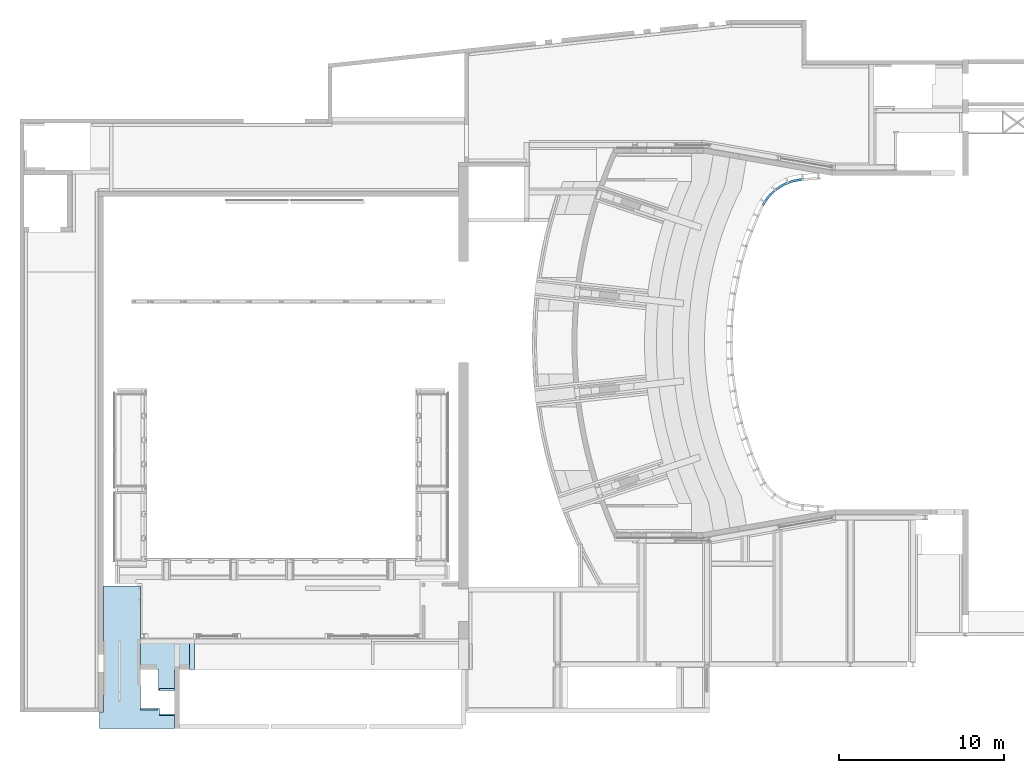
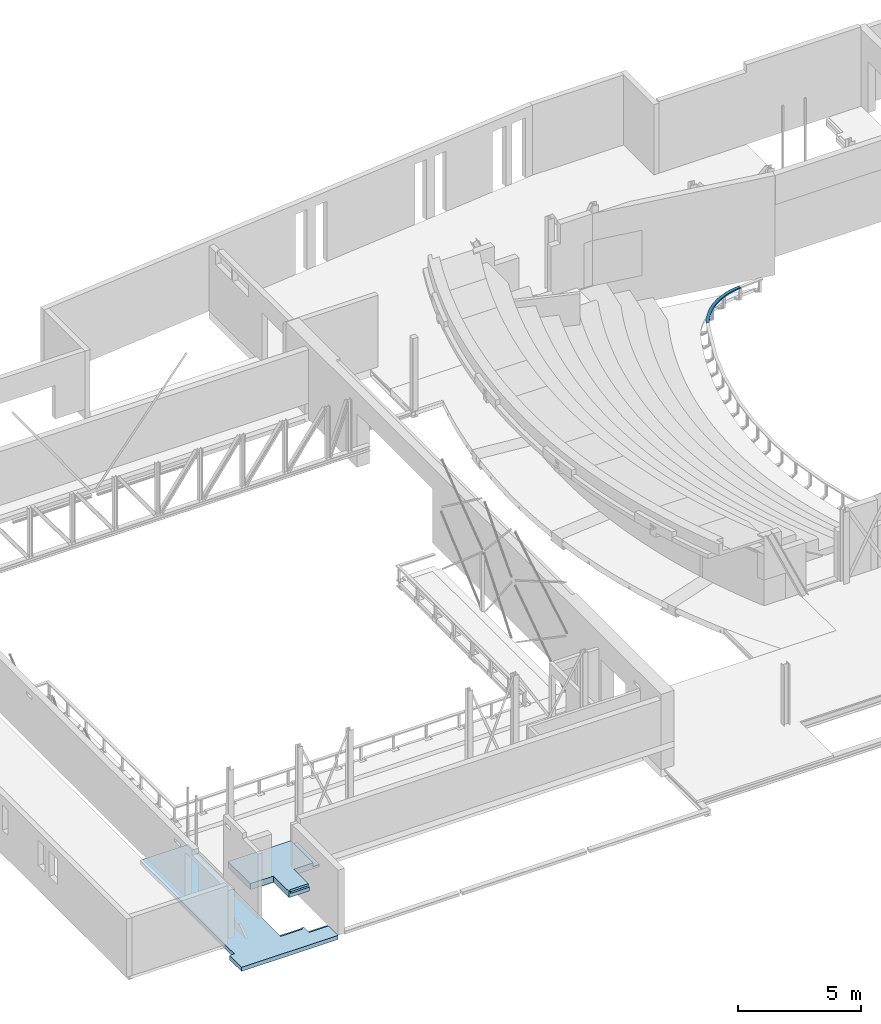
# One storey, part 57 of 68: 2 slabs, 1 beam.
"""IFC2X3 building model written with IfcOpenShell, lengths in millimetres."""

from ifc_helpers import new_model, entity, si_unit, converted_unit, derived_unit, direction, frame, origin, place, context, subcontext, project, spatial, faceted_brep, material, type_object, element, save


model = new_model("IFC2X3")

# Units and contexts
model_context = context("Model", 3, precision=0.01, world=origin(), true_north=direction((6.12303176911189e-17, 1.0)))
body_context = subcontext(model_context, "Body", "Model", "MODEL_VIEW")
ifc_project = project(units=[si_unit("LENGTHUNIT", "METRE", prefix="MILLI"), si_unit("AREAUNIT", "SQUARE_METRE", prefix="MILLI"), si_unit("VOLUMEUNIT", "CUBIC_METRE"), converted_unit("PLANEANGLEUNIT", "DEGREE", entity("IfcRatioMeasure", 0.0174532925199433), si_unit("PLANEANGLEUNIT", "RADIAN"), dimensions=[0, 0, 0, 0, 0, 0, 0]), si_unit("MASSUNIT", "GRAM", prefix="KILO"), derived_unit("MASSDENSITYUNIT", [(si_unit("MASSUNIT", "GRAM", prefix="KILO"), 1), (si_unit("LENGTHUNIT", "METRE"), -3)]), derived_unit("MOMENTOFINERTIAUNIT", [(si_unit("LENGTHUNIT", "METRE"), 4)]), si_unit("TIMEUNIT", "SECOND"), si_unit("FREQUENCYUNIT", "HERTZ"), si_unit("THERMODYNAMICTEMPERATUREUNIT", "DEGREE_CELSIUS"), derived_unit("THERMALTRANSMITTANCEUNIT", [(si_unit("MASSUNIT", "GRAM", prefix="KILO"), 1), (si_unit("THERMODYNAMICTEMPERATUREUNIT", "KELVIN"), -1), (si_unit("TIMEUNIT", "SECOND"), -3)]), derived_unit("VOLUMETRICFLOWRATEUNIT", [(si_unit("LENGTHUNIT", "METRE"), 3), (si_unit("TIMEUNIT", "SECOND"), -1)]), si_unit("ELECTRICCURRENTUNIT", "AMPERE"), si_unit("ELECTRICVOLTAGEUNIT", "VOLT"), si_unit("POWERUNIT", "WATT"), si_unit("FORCEUNIT", "NEWTON", prefix="KILO"), si_unit("ILLUMINANCEUNIT", "LUX"), si_unit("LUMINOUSFLUXUNIT", "LUMEN"), si_unit("LUMINOUSINTENSITYUNIT", "CANDELA"), derived_unit("USERDEFINED", [(si_unit("MASSUNIT", "GRAM", prefix="KILO"), -1), (si_unit("LENGTHUNIT", "METRE"), -2), (si_unit("TIMEUNIT", "SECOND"), 3), (si_unit("LUMINOUSFLUXUNIT", "LUMEN"), 1)]), derived_unit("LINEARVELOCITYUNIT", [(si_unit("LENGTHUNIT", "METRE"), 1), (si_unit("TIMEUNIT", "SECOND"), -1)]), si_unit("PRESSUREUNIT", "PASCAL"), derived_unit("USERDEFINED", [(si_unit("LENGTHUNIT", "METRE"), -2), (si_unit("MASSUNIT", "GRAM", prefix="KILO"), 1), (si_unit("TIMEUNIT", "SECOND"), -2)]), derived_unit("LINEARFORCEUNIT", [(si_unit("MASSUNIT", "GRAM", prefix="KILO"), 1), (si_unit("LENGTHUNIT", "METRE"), 1), (si_unit("TIMEUNIT", "SECOND"), -2), (si_unit("LENGTHUNIT", "METRE"), -1)]), derived_unit("PLANARFORCEUNIT", [(si_unit("MASSUNIT", "GRAM", prefix="KILO"), 1), (si_unit("LENGTHUNIT", "METRE"), 1), (si_unit("TIMEUNIT", "SECOND"), -2), (si_unit("LENGTHUNIT", "METRE"), -2)])], contexts=[model_context])

# Site, building, storey
site_placement = place(None, origin())
site = spatial("IfcSite", under=ifc_project, at=site_placement, Name="Theater aan de Parade", CompositionType="ELEMENT")
building_placement = place(site_placement, origin())
building = spatial("IfcBuilding", under=site, at=building_placement, Name="Theater aan de Parade", CompositionType="ELEMENT")
storey_placement = place(building_placement, frame((0.0, 0.0, 8750.0)))
storey = spatial("IfcBuildingStorey", under=building, at=storey_placement, Name="02 tweede verdieping", CompositionType="ELEMENT", Elevation=8750.0)

# Beam
ifc_material_1 = material(Name="00_PBT_MAT_staal_S355")
beam_type = type_object("IfcBeamType", Name="28_PBT_SF_staal_UNP-profiel:S355_UNP140", PredefinedType="NOTDEFINED")
beam_placement = place(storey_placement, frame((57862.6552928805, 39365.6098973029, 0.0)))
element("IfcBeam", 1, at=beam_placement, inside=storey, type_object=beam_type, material=ifc_material_1, Name="28_PBT_SF_staal_UNP-profiel:S355_UNP140", ObjectType="28_PBT_SF_staal_UNP-profiel:S355_UNP140", context=body_context, shape_type="Brep", body=[
    faceted_brep([(-2566.82973361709, 1591.73644807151, -1398.0), (-2566.82973361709, 1591.73644807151, -1458.0), (-2661.93820644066, 1426.99852368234, -1458.0), (-2661.93820644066, 1426.99852368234, -1398.0), (-2564.29373593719, 1590.16383112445, -1458.0), (-2659.30824270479, 1425.58866587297, -1458.0), (-2561.41132852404, 1588.37639938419, -1456.67380120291), (-2656.31903375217, 1423.98622568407, -1456.67380120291), (-2560.05797920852, 1587.53716357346, -1453.39872611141), (-2654.91553892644, 1423.23384719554, -1453.39872611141), (-2557.3930846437, 1585.88461539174, -1414.20254777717), (-2652.15190230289, 1421.75233069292, -1414.20254777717), (-2554.68638601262, 1584.20614377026, -1407.65239759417), (-2649.34491265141, 1420.24757371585, -1407.65239759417), (-2548.92157118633, 1580.63128028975, -1405.0), (-2643.36649474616, 1417.04269333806, -1405.0), (-2465.75778914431, 1529.05995037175, -1405.0), (-2557.12125381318, 1370.80877581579, -1405.0), (-2459.99297431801, 1525.48508689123, -1407.65239759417), (-2551.14283590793, 1367.60389543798, -1407.65239759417), (-2457.28627568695, 1523.80661526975, -1414.20254777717), (-2548.33584625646, 1366.09913846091, -1414.20254777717), (-2454.62138112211, 1522.15406708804, -1453.39872611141), (-2545.5722096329, 1364.61762195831, -1453.39872611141), (-2453.26803180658, 1521.3148312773, -1456.67380120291), (-2544.16871480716, 1363.86524346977, -1456.67380120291), (-2450.38562439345, 1519.52739953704, -1458.0), (-2541.17950585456, 1362.26280328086, -1458.0), (-2447.84962671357, 1517.95478258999, -1458.0), (-2538.54954211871, 1360.8529454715, -1458.0), (-2447.84962671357, 1517.95478258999, -1398.0), (-2538.54954211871, 1360.8529454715, -1398.0), (-2346.48573014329, 1901.64258464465, -1398.0), (-2346.48573014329, 1901.64258464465, -1458.0), (-2344.16742975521, 1899.76378406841, -1458.0), (-2341.53245643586, 1897.62834492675, -1456.67380120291), (-2340.29528249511, 1896.62571251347, -1453.39872611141), (-2337.85915009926, 1894.65141833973, -1414.20254777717), (-2335.38480221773, 1892.64615351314, -1407.65239759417), (-2330.11485557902, 1888.37527522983, -1405.0), (-2254.09009037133, 1826.76316774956, -1405.0), (-2248.82014373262, 1822.49228946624, -1407.65239759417), (-2246.3457958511, 1820.48702463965, -1414.20254777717), (-2243.90966345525, 1818.51273046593, -1453.39872611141), (-2242.67248951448, 1817.51009805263, -1456.67380120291), (-2240.03751619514, 1815.37465891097, -1458.0), (-2237.71921580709, 1813.49585833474, -1458.0), (-2237.71921580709, 1813.49585833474, -1398.0), (-2222.12421430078, 2045.58152556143, -1398.0), (-2222.12421430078, 2045.58152556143, -1458.0), (-2219.92878163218, 2043.56051499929, -1458.0), (-2217.43345939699, 2041.26344041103, -1456.67380120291), (-2216.26185450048, 2040.18491684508, -1453.39872611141), (-2213.95483480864, 2038.06118459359, -1414.20254777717), (-2211.61162501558, 2035.90413746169, -1407.65239759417), (-2206.6209805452, 2031.30998828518, -1405.0), (-2134.62545571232, 1965.03434330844, -1405.0), (-2129.63481124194, 1960.44019413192, -1407.65239759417), (-2127.2916014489, 1958.28314700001, -1414.20254777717), (-2124.98458175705, 1956.15941474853, -1453.39872611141), (-2123.81297686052, 1955.08089118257, -1456.67380120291), (-2121.31765462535, 1952.78381659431, -1458.0), (-2119.12222195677, 1950.76280603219, -1458.0), (-2119.12222195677, 1950.76280603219, -1398.0), (-1947.48665481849, 2308.57868196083, -1398.0), (-1947.48665481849, 2308.57868196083, -1458.0), (-1945.56256083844, 2306.29783329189, -1458.0), (-1943.37564134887, 2303.705427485, -1456.67380120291), (-1942.34883785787, 2302.48823986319, -1453.39872611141), (-1940.32694815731, 2300.09146274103, -1414.20254777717), (-1938.27334117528, 2297.65708749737, -1407.65239759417), (-1933.89950219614, 2292.4722758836, -1405.0), (-1870.80207365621, 2217.67567686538, -1405.0), (-1866.42823467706, 2212.4908652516, -1407.65239759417), (-1864.37462769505, 2210.05649000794, -1414.20254777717), (-1862.35273799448, 2207.65971288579, -1453.39872611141), (-1861.32593450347, 2206.44252526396, -1456.67380120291), (-1859.13901501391, 2203.85011945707, -1458.0), (-1857.21492103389, 2201.56927078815, -1458.0), (-1857.21492103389, 2201.56927078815, -1398.0), (-1798.29998638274, 2426.5936949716, -1398.0), (-1798.29998638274, 2426.5936949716, -1458.0), (-1796.52328708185, 2424.19624885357, -1458.0), (-1794.5038959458, 2421.47131873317, -1456.67380120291), (-1793.55575044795, 2420.1919082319, -1453.39872611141), (-1791.68874704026, 2417.67260737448, -1414.20254777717), (-1789.79245604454, 2415.11378637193, -1407.65239759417), (-1785.75367377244, 2409.66392613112, -1405.0), (-1727.48980603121, 2331.0437097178, -1405.0), (-1723.45102375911, 2325.59384947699, -1407.65239759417), (-1721.5547327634, 2323.03502847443, -1414.20254777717), (-1719.6877293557, 2320.51572761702, -1453.39872611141), (-1718.73958385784, 2319.23631711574, -1456.67380120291), (-1716.72019272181, 2316.51138699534, -1458.0), (-1714.94349342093, 2314.11394087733, -1458.0), (-1714.94349342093, 2314.11394087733, -1398.0), (-1479.14733822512, 2633.31786028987, -1398.0), (-1479.14733822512, 2633.31786028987, -1458.0), (-1477.68595799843, 2630.71617312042, -1458.0), (-1476.02495758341, 2627.759103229, -1456.67380120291), (-1475.24508386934, 2626.37069835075, -1453.39872611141), (-1473.70942622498, 2623.63677550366, -1414.20254777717), (-1472.14967879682, 2620.85996574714, -1407.65239759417), (-1468.82767796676, 2614.94582596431, -1405.0), (-1420.90416935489, 2529.62786750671, -1405.0), (-1417.58216852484, 2523.71372772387, -1407.65239759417), (-1416.02242109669, 2520.93691796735, -1414.20254777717), (-1414.48676345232, 2518.20299512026, -1453.39872611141), (-1413.70688973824, 2516.814590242, -1456.67380120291), (-1412.04588932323, 2513.85752035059, -1458.0), (-1410.58450909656, 2511.25583318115, -1458.0), (-1410.58450909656, 2511.25583318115, -1398.0), (-1310.44730691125, 2721.20702213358, -1398.0), (-1310.44730691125, 2721.20702213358, -1458.0), (-1309.15260033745, 2718.51850150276, -1458.0), (-1307.68104070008, 2715.46273695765, -1456.67380120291), (-1306.99011331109, 2714.02799291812, -1453.39872611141), (-1305.62960082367, 2711.20282313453, -1414.20254777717), (-1304.24774604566, 2708.33333505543, -1407.65239759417), (-1301.30462677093, 2702.22180596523, -1405.0), (-1258.84690050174, 2614.05629006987, -1405.0), (-1255.903781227, 2607.94476097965, -1407.65239759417), (-1254.52192644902, 2605.07527290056, -1414.20254777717), (-1253.16141396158, 2602.25010311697, -1453.39872611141), (-1252.47048657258, 2600.81535907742, -1456.67380120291), (-1250.99892693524, 2597.75959453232, -1458.0), (-1249.70422036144, 2595.07107390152, -1458.0), (-1249.70422036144, 2595.07107390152, -1398.0), (-958.142996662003, 2864.2977847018, -1398.0), (-958.142996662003, 2864.2977847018, -1458.0), (-957.196362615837, 2861.46789207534, -1458.0), (-956.120421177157, 2858.25144454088, -1456.67380120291), (-955.61524463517, 2856.74125654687, -1453.39872611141), (-954.620496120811, 2853.76752926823, -1414.20254777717), (-953.61014303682, 2850.74715328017, -1407.65239759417), (-951.458260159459, 2844.31425821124, -1405.0), (-920.41498748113, 2751.51268530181, -1405.0), (-918.263104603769, 2745.07979023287, -1407.65239759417), (-917.252751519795, 2742.05941424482, -1414.20254777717), (-916.258003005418, 2739.08568696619, -1453.39872611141), (-915.752826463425, 2737.57549897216, -1456.67380120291), (-914.676885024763, 2734.3590514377, -1458.0), (-913.73025097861, 2731.52915881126, -1458.0), (-913.73025097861, 2731.52915881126, -1398.0), (-775.936165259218, 2918.93180272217, -1398.0), (-775.936165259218, 2918.93180272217, -1458.0), (-775.169549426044, 2916.04793232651, -1458.0), (-774.298216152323, 2912.77013382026, -1456.67380120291), (-773.889107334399, 2911.23114028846, -1453.39872611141), (-773.083526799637, 2908.20069171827, -1414.20254777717), (-772.265309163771, 2905.12270465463, -1407.65239759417), (-770.522642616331, 2898.56710764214, -1405.0), (-745.382764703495, 2803.99542450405, -1405.0), (-743.640098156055, 2797.43982749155, -1407.65239759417), (-742.821880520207, 2794.36184042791, -1414.20254777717), (-742.016299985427, 2791.33139185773, -1453.39872611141), (-741.607191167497, 2789.79239832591, -1456.67380120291), (-740.735857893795, 2786.51459981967, -1458.0), (-739.969242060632, 2783.63072942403, -1458.0), (-739.969242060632, 2783.63072942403, -1398.0), (-403.02398407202, 2993.29441748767, -1398.0), (-403.02398407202, 2993.29441748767, -1458.0), (-402.625801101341, 2990.33707770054, -1458.0), (-402.173227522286, 2986.97577410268, -1456.67380120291), (-401.960734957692, 2985.39757322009, -1453.39872611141), (-401.542313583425, 2982.28992103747, -1414.20254777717), (-401.117328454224, 2979.13351927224, -1407.65239759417), (-400.212181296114, 2972.41091207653, -1405.0), (-387.154439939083, 2875.42992371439, -1405.0), (-386.249292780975, 2868.70731651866, -1407.65239759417), (-385.82430765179, 2865.55091475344, -1414.20254777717), (-385.405886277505, 2862.44326257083, -1453.39872611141), (-385.193393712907, 2860.86506168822, -1456.67380120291), (-384.740820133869, 2857.50375809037, -1458.0), (-384.342637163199, 2854.54641830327, -1458.0), (-384.342637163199, 2854.54641830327, -1398.0), (-213.797824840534, 3012.72804806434, -1398.0), (-213.797824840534, 3012.72804806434, -1458.0), (-213.586595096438, 3009.75150807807, -1458.0), (-213.346511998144, 3006.36838159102, -1456.67380120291), (-213.23378806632, 3004.779934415, -1453.39872611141), (-213.011822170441, 3001.65210614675, -1414.20254777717), (-212.786374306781, 2998.47521179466, -1407.65239759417), (-212.306208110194, 2991.70895882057, -1405.0), (-205.379283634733, 2894.09833219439, -1405.0), (-204.899117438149, 2887.33207922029, -1407.65239759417), (-204.673669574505, 2884.15518486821, -1414.20254777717), (-204.451703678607, 2881.02735659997, -1453.39872611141), (-204.338979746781, 2879.43890942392, -1456.67380120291), (-204.098896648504, 2876.05578293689, -1458.0), (-203.887666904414, 2873.07924295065, -1458.0), (-203.887666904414, 2873.07924295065, -1398.0)], [[[0, 1, 2, 3]], [[1, 4, 5, 2]], [[4, 6, 7, 5]], [[6, 8, 9, 7]], [[8, 10, 11, 9]], [[10, 12, 13, 11]], [[12, 14, 15, 13]], [[14, 16, 17, 15]], [[16, 18, 19, 17]], [[18, 20, 21, 19]], [[20, 22, 23, 21]], [[22, 24, 25, 23]], [[24, 26, 27, 25]], [[26, 28, 29, 27]], [[28, 30, 31, 29]], [[30, 0, 3, 31]], [[32, 33, 1, 0]], [[33, 34, 4, 1]], [[34, 35, 6, 4]], [[35, 36, 8, 6]], [[36, 37, 10, 8]], [[37, 38, 12, 10]], [[38, 39, 14, 12]], [[39, 40, 16, 14]], [[40, 41, 18, 16]], [[41, 42, 20, 18]], [[42, 43, 22, 20]], [[43, 44, 24, 22]], [[44, 45, 26, 24]], [[45, 46, 28, 26]], [[46, 47, 30, 28]], [[47, 32, 0, 30]], [[48, 49, 33, 32]], [[49, 50, 34, 33]], [[50, 51, 35, 34]], [[51, 52, 36, 35]], [[52, 53, 37, 36]], [[53, 54, 38, 37]], [[54, 55, 39, 38]], [[55, 56, 40, 39]], [[56, 57, 41, 40]], [[57, 58, 42, 41]], [[58, 59, 43, 42]], [[59, 60, 44, 43]], [[60, 61, 45, 44]], [[61, 62, 46, 45]], [[62, 63, 47, 46]], [[63, 48, 32, 47]], [[64, 65, 49, 48]], [[65, 66, 50, 49]], [[66, 67, 51, 50]], [[67, 68, 52, 51]], [[68, 69, 53, 52]], [[69, 70, 54, 53]], [[70, 71, 55, 54]], [[71, 72, 56, 55]], [[72, 73, 57, 56]], [[73, 74, 58, 57]], [[74, 75, 59, 58]], [[75, 76, 60, 59]], [[76, 77, 61, 60]], [[77, 78, 62, 61]], [[78, 79, 63, 62]], [[79, 64, 48, 63]], [[80, 81, 65, 64]], [[81, 82, 66, 65]], [[82, 83, 67, 66]], [[83, 84, 68, 67]], [[84, 85, 69, 68]], [[85, 86, 70, 69]], [[86, 87, 71, 70]], [[87, 88, 72, 71]], [[88, 89, 73, 72]], [[89, 90, 74, 73]], [[90, 91, 75, 74]], [[91, 92, 76, 75]], [[92, 93, 77, 76]], [[93, 94, 78, 77]], [[94, 95, 79, 78]], [[95, 80, 64, 79]], [[96, 97, 81, 80]], [[97, 98, 82, 81]], [[98, 99, 83, 82]], [[99, 100, 84, 83]], [[100, 101, 85, 84]], [[101, 102, 86, 85]], [[102, 103, 87, 86]], [[103, 104, 88, 87]], [[104, 105, 89, 88]], [[105, 106, 90, 89]], [[106, 107, 91, 90]], [[107, 108, 92, 91]], [[108, 109, 93, 92]], [[109, 110, 94, 93]], [[110, 111, 95, 94]], [[111, 96, 80, 95]], [[112, 113, 97, 96]], [[113, 114, 98, 97]], [[114, 115, 99, 98]], [[115, 116, 100, 99]], [[116, 117, 101, 100]], [[117, 118, 102, 101]], [[118, 119, 103, 102]], [[119, 120, 104, 103]], [[120, 121, 105, 104]], [[121, 122, 106, 105]], [[122, 123, 107, 106]], [[123, 124, 108, 107]], [[124, 125, 109, 108]], [[125, 126, 110, 109]], [[126, 127, 111, 110]], [[127, 112, 96, 111]], [[128, 129, 113, 112]], [[129, 130, 114, 113]], [[130, 131, 115, 114]], [[131, 132, 116, 115]], [[132, 133, 117, 116]], [[133, 134, 118, 117]], [[134, 135, 119, 118]], [[135, 136, 120, 119]], [[136, 137, 121, 120]], [[137, 138, 122, 121]], [[138, 139, 123, 122]], [[139, 140, 124, 123]], [[140, 141, 125, 124]], [[141, 142, 126, 125]], [[142, 143, 127, 126]], [[143, 128, 112, 127]], [[144, 145, 129, 128]], [[145, 146, 130, 129]], [[146, 147, 131, 130]], [[147, 148, 132, 131]], [[148, 149, 133, 132]], [[149, 150, 134, 133]], [[150, 151, 135, 134]], [[151, 152, 136, 135]], [[152, 153, 137, 136]], [[153, 154, 138, 137]], [[154, 155, 139, 138]], [[155, 156, 140, 139]], [[156, 157, 141, 140]], [[157, 158, 142, 141]], [[158, 159, 143, 142]], [[159, 144, 128, 143]], [[160, 161, 145, 144]], [[161, 162, 146, 145]], [[162, 163, 147, 146]], [[163, 164, 148, 147]], [[164, 165, 149, 148]], [[165, 166, 150, 149]], [[166, 167, 151, 150]], [[167, 168, 152, 151]], [[168, 169, 153, 152]], [[169, 170, 154, 153]], [[170, 171, 155, 154]], [[171, 172, 156, 155]], [[172, 173, 157, 156]], [[173, 174, 158, 157]], [[174, 175, 159, 158]], [[175, 160, 144, 159]], [[176, 177, 161, 160]], [[177, 178, 162, 161]], [[178, 179, 163, 162]], [[179, 180, 164, 163]], [[180, 181, 165, 164]], [[181, 182, 166, 165]], [[182, 183, 167, 166]], [[183, 184, 168, 167]], [[184, 185, 169, 168]], [[185, 186, 170, 169]], [[186, 187, 171, 170]], [[187, 188, 172, 171]], [[188, 189, 173, 172]], [[189, 190, 174, 173]], [[190, 191, 175, 174]], [[191, 176, 160, 175]], [[3, 2, 5, 7, 9, 11, 13, 15, 17, 19, 21, 23, 25, 27, 29, 31]], [[191, 190, 189, 188, 187, 186, 185, 184, 183, 182, 181, 180, 179, 178, 177, 176]]]),
])

# Slabs
ifc_material_2 = material(Name="00_PBT_MAT_beton t.p.g._C30/37")
slab_type_1 = type_object("IfcSlabType", Name="Floor:28_PBT_FL_beton t.p.g._d=200_C30/37", PredefinedType="FLOOR")
slab_1_placement = place(storey_placement, origin())
element("IfcSlab", 2, at=slab_1_placement, inside=storey, type_object=slab_type_1, material=ifc_material_2, Name="Floor:28_PBT_FL_beton t.p.g._d=200_C30/37", ObjectType="Floor:28_PBT_FL_beton t.p.g._d=200_C30/37", PredefinedType="FLOOR", context=body_context, shape_type="Brep", body=[
    faceted_brep([(19653.8570025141, 9088.91803238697, -290.0), (15123.856894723, 9088.91803238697, -290.0), (15123.8570025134, 10069.3270746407, -290.0), (15353.8570025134, 10069.3270746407, -290.0), (15353.8570025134, 11819.3270746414, -290.0), (15353.8570025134, 12019.3270746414, -290.0), (15353.8570025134, 17711.308446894, -290.0), (17403.8570025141, 17711.308446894, -290.0), (17403.8570025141, 14186.290696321, -290.0), (17603.8570025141, 14186.290696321, -290.0), (17603.8570025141, 12019.3270746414, -290.0), (17603.8570025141, 11819.3270746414, -290.0), (17603.8570025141, 10297.9609034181, -290.0), (18743.8570025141, 10297.9609034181, -290.0), (18743.8570025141, 9963.16246859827, -290.0), (19653.8570025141, 9963.16246859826, -290.0), (15123.856894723, 9088.91803238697, -90.0), (19653.8570025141, 9088.91803238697, -90.0), (19653.8570025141, 9863.16246859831, -90.0), (18743.8570025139, 9863.16246859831, -90.0), (18743.8570025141, 10297.9609034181, -90.0), (18638.8570025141, 10297.9609034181, -90.0), (18638.8570025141, 10197.9609034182, -90.0), (17603.8570025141, 10197.9609034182, -90.0), (17603.8570025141, 11699.3196845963, -90.0), (17603.8570025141, 14486.2906236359, -90.0), (17603.8570025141, 17711.308446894, -90.0), (15353.8570025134, 17711.308446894, -90.0), (15353.8570025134, 10069.3270746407, -90.0), (15123.8570025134, 10069.3270746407, -90.0), (17603.8570025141, 17711.308446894, -250.0), (17403.8570025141, 17711.308446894, -250.0), (17603.8570025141, 10197.9609034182, -110.0), (17603.8570025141, 10297.9609034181, -110.0), (17603.8570025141, 14186.290696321, -250.0), (18638.8570025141, 10297.9609034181, -110.0), (19653.8570025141, 9963.16246859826, -110.0), (19653.8570025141, 9863.16246859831, -110.0), (17403.8570025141, 14186.290696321, -250.0), (18638.8570025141, 10197.9609034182, -110.0), (18743.8570025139, 9863.16246859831, -110.0), (18743.8570025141, 9963.16246859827, -110.0)], [[[0, 1, 2, 3, 4, 5, 6, 7, 8, 9, 10, 11, 12, 13, 14, 15]], [[16, 17, 18, 19, 20, 21, 22, 23, 24, 25, 26, 27, 28, 29]], [[1, 0, 17, 16]], [[6, 5, 4, 3, 28, 27]], [[27, 26, 30, 31, 7, 6]], [[32, 33, 12, 11, 10, 9, 34, 30, 26, 25, 24, 23]], [[13, 12, 33, 35, 21, 20]], [[0, 15, 36, 37, 18, 17]], [[34, 38, 31, 30]], [[38, 34, 9, 8]], [[31, 38, 8, 7]], [[2, 1, 16, 29]], [[3, 2, 29, 28]], [[33, 32, 39, 35]], [[39, 32, 23, 22]], [[35, 39, 22, 21]], [[14, 13, 20, 19, 40, 41]], [[15, 14, 41, 36]], [[41, 40, 37, 36]], [[37, 40, 19, 18]]]),
])
slab_type_2 = type_object("IfcSlabType", Name="Floor:28_PBT_FL_beton t.p.g._d=300_C30/37", PredefinedType="FLOOR")
slab_2_placement = place(storey_placement, origin())
element("IfcSlab", 3, at=slab_2_placement, inside=storey, type_object=slab_type_2, material=ifc_material_2, Name="Floor:28_PBT_FL_beton t.p.g._d=300_C30/37", ObjectType="Floor:28_PBT_FL_beton t.p.g._d=300_C30/37", PredefinedType="FLOOR", context=body_context, shape_type="Brep", body=[
    faceted_brep([(20853.857002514, 14486.2906963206, 717.0), (20853.857002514, 14186.2906963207, 717.0), (20853.857002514, 12669.2267697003, 717.0), (19953.857002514, 12669.2267697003, 717.0), (19653.857002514, 12669.2267697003, 717.0), (19653.8570025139, 11395.7521328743, 717.0), (18688.8570541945, 11395.7521328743, 717.0), (18688.8570541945, 12669.2267697, 717.0), (17603.857002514, 12669.2267697, 717.0), (17603.857002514, 14186.2906963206, 717.0), (17603.857002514, 14486.2906963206, 717.0), (17603.857002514, 14486.2906963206, 1017.0), (17603.857002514, 12969.2267696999, 1017.0), (17603.857002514, 12669.2267697, 1017.0), (18599.857002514, 12669.2267697, 1017.0), (18688.8570541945, 12669.2267697, 1017.0), (18688.8570541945, 11395.7521328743, 1017.0), (18743.8570025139, 11395.7521328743, 1017.0), (18743.8570025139, 11495.7521328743, 1017.0), (19653.8570025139, 11495.7521328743, 1017.0), (19653.857002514, 12669.2267697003, 1017.0), (20553.857002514, 12669.2267697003, 1017.0), (20553.857002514, 12969.2267697, 1017.0), (20553.857002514, 14486.2906963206, 1017.0), (20853.857002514, 14486.2906963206, 835.0), (20853.857002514, 14186.2906963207, 835.0), (20853.857002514, 12669.2267697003, 835.0), (20553.857002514, 12669.2267697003, 835.0), (20553.857002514, 14486.2906963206, 835.0), (19653.8570025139, 11495.7521328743, 907.0), (19653.8570025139, 11395.7521328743, 907.0), (18743.8570025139, 11395.7521328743, 907.0), (18743.8570025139, 11495.7521328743, 907.0)], [[[0, 1, 2, 3, 4, 5, 6, 7, 8, 9, 10]], [[11, 12, 13, 14, 15, 16, 17, 18, 19, 20, 21, 22, 23]], [[2, 1, 0, 24, 25, 26]], [[4, 3, 2, 26, 27, 21, 20]], [[10, 9, 8, 13, 12, 11]], [[0, 10, 11, 23, 28, 24]], [[5, 4, 20, 19, 29, 30]], [[6, 5, 30, 31, 17, 16]], [[7, 6, 16, 15]], [[8, 7, 15, 14, 13]], [[28, 27, 26, 25, 24]], [[27, 28, 23, 22, 21]], [[32, 31, 30, 29]], [[31, 32, 18, 17]], [[32, 29, 19, 18]]]),
])

save(model, "model.ifc")
